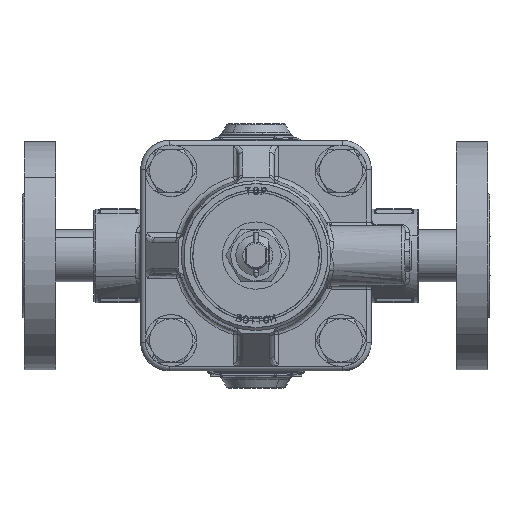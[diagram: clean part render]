
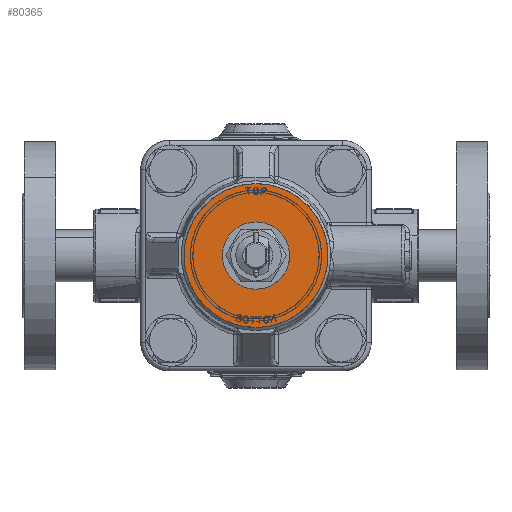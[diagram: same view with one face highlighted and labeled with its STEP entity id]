
A CAD part, top view. The second image highlights one B-rep face of the part: STEP entity #80365.
In plain terms, the highlighted free-form (B-spline) face has degree [1, 1] with [2, 2] control points.
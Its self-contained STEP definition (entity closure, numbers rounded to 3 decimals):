
#80044=CARTESIAN_POINT('',(-20.268,22.118,28.2));
#80045=VERTEX_POINT('',#80044);
#80051=CARTESIAN_POINT('',(0.,30.,28.2));
#80052=VERTEX_POINT('',#80051);
#80053=CARTESIAN_POINT('',(0.,30.,28.2));
#80054=CARTESIAN_POINT('',(-1.97,30.,28.2));
#80055=CARTESIAN_POINT('',(-6.027,29.599,28.2));
#80056=CARTESIAN_POINT('',(-11.48,27.904,28.2));
#80057=CARTESIAN_POINT('',(-16.31,25.348,28.2));
#80058=CARTESIAN_POINT('',(-18.986,23.293,28.2));
#80059=CARTESIAN_POINT('',(-20.268,22.118,28.2));
#80060=B_SPLINE_CURVE_WITH_KNOTS('',3,(#80053,#80054,#80055,#80056,#80057,#80058,#80059),.UNSPECIFIED.,.F.,.U.,(4,1,1,1,4),(0.,5.911,12.17,17.038,22.253),.UNSPECIFIED.);
#80061=EDGE_CURVE('',#80052,#80045,#80060,.T.);
#80063=CARTESIAN_POINT('',(30.,0.,28.2));
#80064=VERTEX_POINT('',#80063);
#80065=CARTESIAN_POINT('',(30.,0.,28.2));
#80066=CARTESIAN_POINT('',(30.,1.902,28.2));
#80067=CARTESIAN_POINT('',(29.666,5.4,28.2));
#80068=CARTESIAN_POINT('',(28.271,10.442,28.2));
#80069=CARTESIAN_POINT('',(26.088,15.132,28.2));
#80070=CARTESIAN_POINT('',(23.107,19.364,28.2));
#80071=CARTESIAN_POINT('',(19.843,22.628,28.2));
#80072=CARTESIAN_POINT('',(16.803,24.926,28.2));
#80073=CARTESIAN_POINT('',(13.107,27.127,28.2));
#80074=CARTESIAN_POINT('',(9.212,28.684,28.2));
#80075=CARTESIAN_POINT('',(4.479,29.762,28.2));
#80076=CARTESIAN_POINT('',(1.718,30.,28.2));
#80077=CARTESIAN_POINT('',(0.,30.,28.2));
#80078=B_SPLINE_CURVE_WITH_KNOTS('',3,(#80065,#80066,#80067,#80068,#80069,#80070,#80071,#80072,#80073,#80074,#80075,#80076,#80077),.UNSPECIFIED.,.F.,.U.,(4,1,1,1,1,1,1,1,1,1,4),(0.,5.706,10.492,15.647,21.169,25.955,29.452,32.582,38.84,41.97,47.124),.UNSPECIFIED.);
#80079=EDGE_CURVE('',#80064,#80052,#80078,.T.);
#80081=CARTESIAN_POINT('',(20.268,-22.118,28.2));
#80082=VERTEX_POINT('',#80081);
#80083=CARTESIAN_POINT('',(20.268,-22.118,28.2));
#80084=CARTESIAN_POINT('',(21.7,-20.806,28.2));
#80085=CARTESIAN_POINT('',(24.179,-18.046,28.2));
#80086=CARTESIAN_POINT('',(27.089,-13.272,28.2));
#80087=CARTESIAN_POINT('',(29.37,-7.318,28.2));
#80088=CARTESIAN_POINT('',(30.001,-2.72,28.2));
#80089=CARTESIAN_POINT('',(30.,0.,28.2));
#80090=B_SPLINE_CURVE_WITH_KNOTS('',3,(#80083,#80084,#80085,#80086,#80087,#80088,#80089),.UNSPECIFIED.,.F.,.U.,(4,1,1,1,4),(0.,5.829,11.075,16.71,24.871),.UNSPECIFIED.);
#80091=EDGE_CURVE('',#80082,#80064,#80090,.T.);
#80197=CARTESIAN_POINT('',(0.,-30.,28.2));
#80198=VERTEX_POINT('',#80197);
#80199=CARTESIAN_POINT('',(0.,-30.,28.2));
#80200=CARTESIAN_POINT('',(1.507,-30.,28.2));
#80201=CARTESIAN_POINT('',(4.636,-29.764,28.2));
#80202=CARTESIAN_POINT('',(9.502,-28.615,28.2));
#80203=CARTESIAN_POINT('',(14.957,-26.273,28.2));
#80204=CARTESIAN_POINT('',(18.474,-23.763,28.2));
#80205=CARTESIAN_POINT('',(20.268,-22.118,28.2));
#80206=B_SPLINE_CURVE_WITH_KNOTS('',3,(#80199,#80200,#80201,#80202,#80203,#80204,#80205),.UNSPECIFIED.,.F.,.U.,(4,1,1,1,4),(0.,4.52,9.388,14.951,22.253),.UNSPECIFIED.);
#80207=EDGE_CURVE('',#80198,#80082,#80206,.T.);
#80209=CARTESIAN_POINT('',(-30.,0.,28.2));
#80210=VERTEX_POINT('',#80209);
#80211=CARTESIAN_POINT('',(-30.,0.,28.2));
#80212=CARTESIAN_POINT('',(-30.,-1.902,28.2));
#80213=CARTESIAN_POINT('',(-29.719,-4.847,28.2));
#80214=CARTESIAN_POINT('',(-28.642,-9.202,28.2));
#80215=CARTESIAN_POINT('',(-27.236,-12.814,28.2));
#80216=CARTESIAN_POINT('',(-24.945,-16.888,28.2));
#80217=CARTESIAN_POINT('',(-22.118,-20.465,28.2));
#80218=CARTESIAN_POINT('',(-18.164,-24.071,28.2));
#80219=CARTESIAN_POINT('',(-14.046,-26.679,28.2));
#80220=CARTESIAN_POINT('',(-9.273,-28.655,28.2));
#80221=CARTESIAN_POINT('',(-4.786,-29.75,28.2));
#80222=CARTESIAN_POINT('',(-1.534,-30.,28.2));
#80223=CARTESIAN_POINT('',(0.,-30.,28.2));
#80224=B_SPLINE_CURVE_WITH_KNOTS('',3,(#80211,#80212,#80213,#80214,#80215,#80216,#80217,#80218,#80219,#80220,#80221,#80222,#80223),.UNSPECIFIED.,.F.,.U.,(4,1,1,1,1,1,1,1,1,1,4),(0.,5.706,8.836,13.438,17.303,22.826,27.059,33.318,37.368,42.522,47.124),.UNSPECIFIED.);
#80225=EDGE_CURVE('',#80210,#80198,#80224,.T.);
#80227=CARTESIAN_POINT('',(-20.268,22.118,28.2));
#80228=CARTESIAN_POINT('',(-24.919,17.856,28.2));
#80229=CARTESIAN_POINT('',(-27.459,12.082,28.2));
#80230=CARTESIAN_POINT('',(-30.,6.308,28.2));
#80231=CARTESIAN_POINT('',(-30.,0.,28.2));
#80239=(BOUNDED_CURVE()B_SPLINE_CURVE(2,(#80227,#80228,#80229,#80230,#80231),.UNSPECIFIED.,.F.,.U.)B_SPLINE_CURVE_WITH_KNOTS((3,2,3),(0.,0.5,1.),.UNSPECIFIED.)CURVE()GEOMETRIC_REPRESENTATION_ITEM()RATIONAL_B_SPLINE_CURVE((1.,0.979,1.,0.979,1.))REPRESENTATION_ITEM(''));
#80240=EDGE_CURVE('',#80045,#80210,#80239,.T.);
#80307=CARTESIAN_POINT('',(32.997,-32.997,28.2));
#80308=CARTESIAN_POINT('',(-32.997,-32.997,28.2));
#80309=CARTESIAN_POINT('',(32.997,32.997,28.2));
#80310=CARTESIAN_POINT('',(-32.997,32.997,28.2));
#80311=B_SPLINE_SURFACE_WITH_KNOTS('',1,1,((#80307,#80309),(#80308,#80310)),.UNSPECIFIED.,.F.,.F.,.U.,(2,2),(2,2),(0.,65.994),(0.,65.994),.UNSPECIFIED.);
#80312=ORIENTED_EDGE('',*,*,#80225,.T.);
#80313=ORIENTED_EDGE('',*,*,#80207,.T.);
#80314=ORIENTED_EDGE('',*,*,#80091,.T.);
#80315=ORIENTED_EDGE('',*,*,#80079,.T.);
#80316=ORIENTED_EDGE('',*,*,#80061,.T.);
#80317=ORIENTED_EDGE('',*,*,#80240,.T.);
#80318=EDGE_LOOP('',(#80312,#80313,#80314,#80315,#80316,#80317));
#80319=FACE_OUTER_BOUND('',#80318,.T.);
#80320=CARTESIAN_POINT('',(-4.989,-5.6,28.2));
#80321=VERTEX_POINT('',#80320);
#80322=CARTESIAN_POINT('',(4.989,-5.6,28.2));
#80323=VERTEX_POINT('',#80322);
#80324=CARTESIAN_POINT('',(-4.989,-5.6,28.2));
#80325=CARTESIAN_POINT('',(4.989,-5.6,28.2));
#80326=QUASI_UNIFORM_CURVE('',1,(#80324,#80325),.UNSPECIFIED.,.F.,.U.);
#80327=EDGE_CURVE('',#80321,#80323,#80326,.T.);
#80328=ORIENTED_EDGE('',*,*,#80327,.F.);
#80329=CARTESIAN_POINT('',(0.,7.5,28.2));
#80330=VERTEX_POINT('',#80329);
#80331=CARTESIAN_POINT('',(0.,7.5,28.2));
#80332=CARTESIAN_POINT('',(-0.896,7.501,28.2));
#80333=CARTESIAN_POINT('',(-2.31,7.243,28.2));
#80334=CARTESIAN_POINT('',(-4.177,6.314,28.2));
#80335=CARTESIAN_POINT('',(-5.379,5.305,28.2));
#80336=CARTESIAN_POINT('',(-6.343,4.078,28.2));
#80337=CARTESIAN_POINT('',(-7.096,2.654,28.2));
#80338=CARTESIAN_POINT('',(-7.586,0.665,28.2));
#80339=CARTESIAN_POINT('',(-7.465,-1.337,28.2));
#80340=CARTESIAN_POINT('',(-6.907,-3.048,28.2));
#80341=CARTESIAN_POINT('',(-6.139,-4.41,28.2));
#80342=CARTESIAN_POINT('',(-5.411,-5.224,28.2));
#80343=CARTESIAN_POINT('',(-4.989,-5.6,28.2));
#80344=B_SPLINE_CURVE_WITH_KNOTS('',3,(#80331,#80332,#80333,#80334,#80335,#80336,#80337,#80338,#80339,#80340,#80341,#80342,#80343),.UNSPECIFIED.,.F.,.U.,(4,1,1,1,1,1,1,1,1,1,4),(0.,2.687,4.243,6.223,7.355,8.911,11.032,13.437,14.851,16.407,18.104),.UNSPECIFIED.);
#80345=EDGE_CURVE('',#80330,#80321,#80344,.T.);
#80346=ORIENTED_EDGE('',*,*,#80345,.F.);
#80347=CARTESIAN_POINT('',(4.989,-5.6,28.2));
#80348=CARTESIAN_POINT('',(5.482,-5.161,28.2));
#80349=CARTESIAN_POINT('',(6.289,-4.224,28.2));
#80350=CARTESIAN_POINT('',(7.184,-2.444,28.2));
#80351=CARTESIAN_POINT('',(7.528,-0.762,28.2));
#80352=CARTESIAN_POINT('',(7.487,0.892,28.2));
#80353=CARTESIAN_POINT('',(7.162,2.471,28.2));
#80354=CARTESIAN_POINT('',(6.439,3.972,28.2));
#80355=CARTESIAN_POINT('',(5.286,5.413,28.2));
#80356=CARTESIAN_POINT('',(4.016,6.418,28.2));
#80357=CARTESIAN_POINT('',(2.168,7.273,28.2));
#80358=CARTESIAN_POINT('',(0.849,7.501,28.2));
#80359=CARTESIAN_POINT('',(0.,7.5,28.2));
#80360=B_SPLINE_CURVE_WITH_KNOTS('',3,(#80347,#80348,#80349,#80350,#80351,#80352,#80353,#80354,#80355,#80356,#80357,#80358,#80359),.UNSPECIFIED.,.F.,.U.,(4,1,1,1,1,1,1,1,1,1,4),(0.,1.98,3.677,5.94,7.072,8.628,10.749,12.022,14.144,15.558,18.104),.UNSPECIFIED.);
#80361=EDGE_CURVE('',#80323,#80330,#80360,.T.);
#80362=ORIENTED_EDGE('',*,*,#80361,.F.);
#80363=EDGE_LOOP('',(#80328,#80346,#80362));
#80364=FACE_BOUND('',#80363,.T.);
#80365=ADVANCED_FACE('',(#80319,#80364),#80311,.F.);
